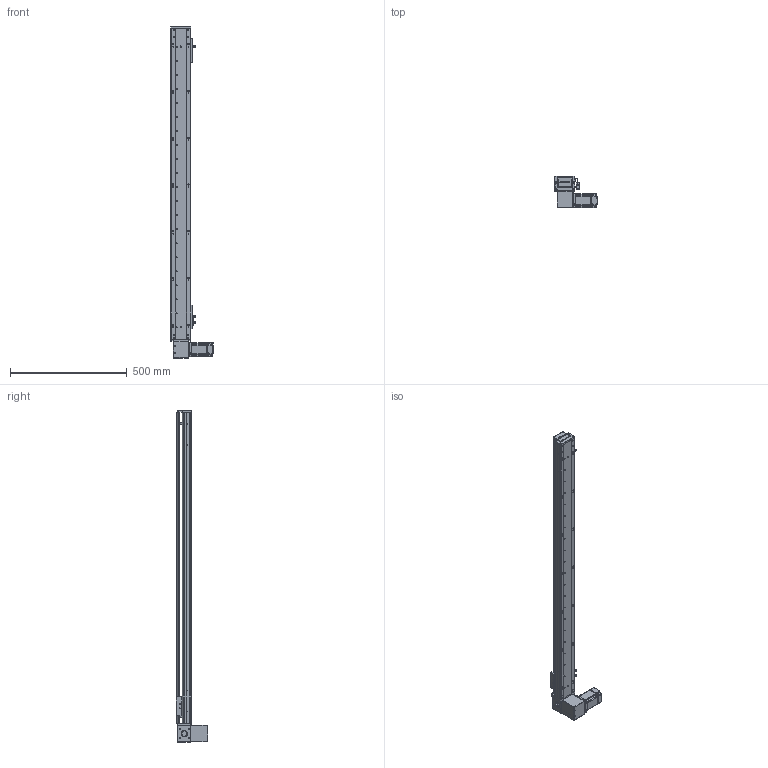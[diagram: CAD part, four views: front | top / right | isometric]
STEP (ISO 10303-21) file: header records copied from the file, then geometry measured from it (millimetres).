
FILE_DESCRIPTION (( 'STEP AP203' ), '1' );
FILE_NAME ('RY80-T-300-DR.SLDASM_1150.step', '2021-03-01T01:50:21', ( '盈信电脑' ), ( '东莞市道滘镇水果街19号' ), 'SwSTEP 2.0', 'SolidWorks 2012', '' );
FILE_SCHEMA (( 'CONFIG_CONTROL_DESIGN' ));
Length unit declared in the file: millimetre
Products named in the file (18): RY80-T-M4蹟翐3; RY80-T-300-DR.SLDASM_1150; RY80-T-上下折同步轮盖板; RY80-T萇儂假蚾啣; RY80-T肮祭謫狟殏俋欶; 1; RY80-T肮祭湍揤輸1; 滅袉蝶18-10; RY80-T翋肮祭謫裔啣; RY80-T肮祭湍揤輸2; RY80俋离覜茼え; 覜茼ん672; RY80-T-翋肮祭謫釱; RY80-T-300-DR倰第奻裔啣_1150; RY80-T綴裔啣; RY80-T肮祭謫臏賑輸; 672嫖萇羲壽假蚾釱; RY80-T-300-DR倰第菁釱_1150
Assembly tree (21 placements, depth 2):
  RY80-T-300-DR.SLDASM_1150
    RY80-T-300-DR倰第菁釱_1150
    RY80-T肮祭謫臏賑輸
    RY80-T-300-DR倰第奻裔啣_1150
    RY80-T綴裔啣
    672嫖萇羲壽假蚾釱  x2
    覜茼ん672  x3
    RY80俋离覜茼え
    RY80-T-翋肮祭謫釱
    RY80-T肮祭湍揤輸1
    RY80-T肮祭湍揤輸2
    滅袉蝶18-10  x2
    RY80-T翋肮祭謫裔啣
    RY80-T-上下折同步轮盖板
    RY80-T肮祭謫狟殏俋欶
    RY80-T萇儂假蚾啣
    1
    RY80-T-M4蹟翐3
Bounding box: 180 x 134.5 x 1420 mm (x, y, z)
Volume: 2360312.4 mm3; surface area: 990274.9 mm2
Topology: 21 solids, 21 shells, 2426 faces, 6712 edges, 4358 vertices
Faces by surface type: plane 1307, cylinder 922, cone 141, bspline 56
Entity records: 77388 total; most frequent: CARTESIAN_POINT 18812, ORIENTED_EDGE 12068, DIRECTION 11328, EDGE_CURVE 6034, VERTEX_POINT 3962, AXIS2_PLACEMENT_3D 3802, VECTOR 3724, LINE 3724
